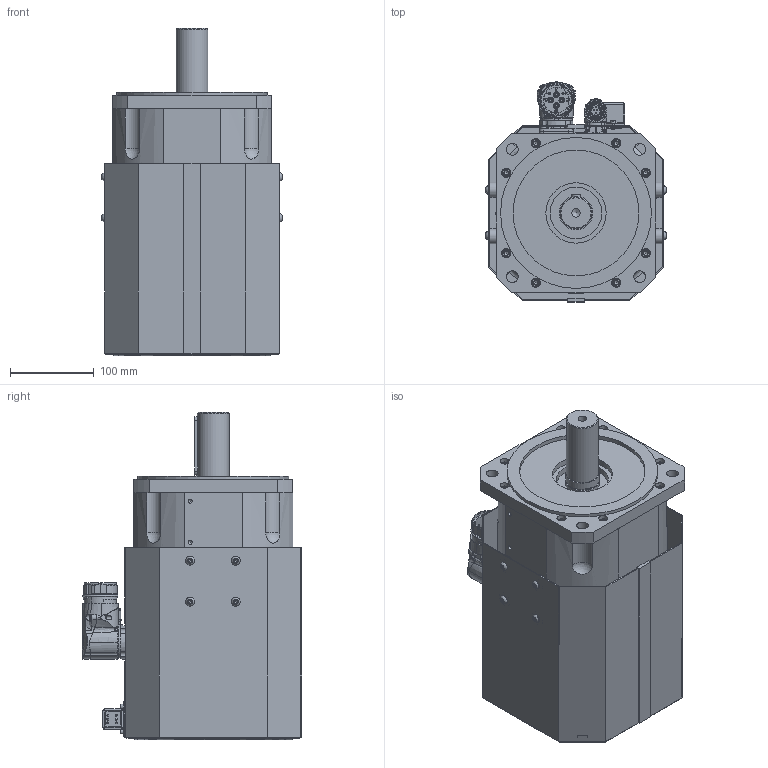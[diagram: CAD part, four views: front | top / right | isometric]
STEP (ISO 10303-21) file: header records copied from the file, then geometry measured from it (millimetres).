
FILE_DESCRIPTION(/* description */ (''),/* implementation_level */ '2;1');
FILE_NAME(/* name */ 'C:\Users\Public\Documents\Autodesk\Inventor LT 2014\Workspace\Motori Sito WEB\TG_6\DSF5_6x\STEP_DSF5_6x\DSF5_62_x099.stp',/* time_stamp */ '2021-04-06T09:29:53+02:00',/* author */ ('marcor'),/* organization */ (''),/* preprocessor_version */ 'ST-DEVELOPER v15.2',/* originating_system */ 'Autodesk Inventor LT ',/* authorisation */ '');
FILE_SCHEMA (('AUTOMOTIVE_DESIGN { 1 0 10303 214 3 1 1 }'));
Products named in the file (1): DSF5_62_x099
Bounding box: 215 x 262.25 x 390.5 mm (x, y, z)
Volume: 7650416 mm3; surface area: 932520.8 mm2
Topology: 37 solids, 46 shells, 2402 faces, 6041 edges, 3897 vertices
Faces by surface type: plane 1048, cylinder 518, cone 470, bspline 177, torus 147, sphere 42
Full cylindrical faces by diameter (mm): 1.2 x12, 2 x2, 2.2 x4, 2.224 x4, 2.4 x6, 2.5 x4, 2.88 x4, 3 x4, 3.26 x4, 3.5 x10, 3.6 x5, 4 x5, 4.5 x1, 4.8 x4, 4.917 x32, 5 x7, 5.1 x4, 5.4 x1, 5.5 x3, 5.9 x1, 6 x28, 6.5 x24, 7 x4, 8 x3, 8.5 x1, 10 x20, 10.106 x1, 11 x20, 12 x1, 14 x4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
Entity records: 78074 total; most frequent: CARTESIAN_POINT 23469, ORIENTED_EDGE 10650, DIRECTION 10475, EDGE_CURVE 5271, AXIS2_PLACEMENT_3D 4151, VERTEX_POINT 3681, EDGE_LOOP 3238, ADVANCED_FACE 2401
